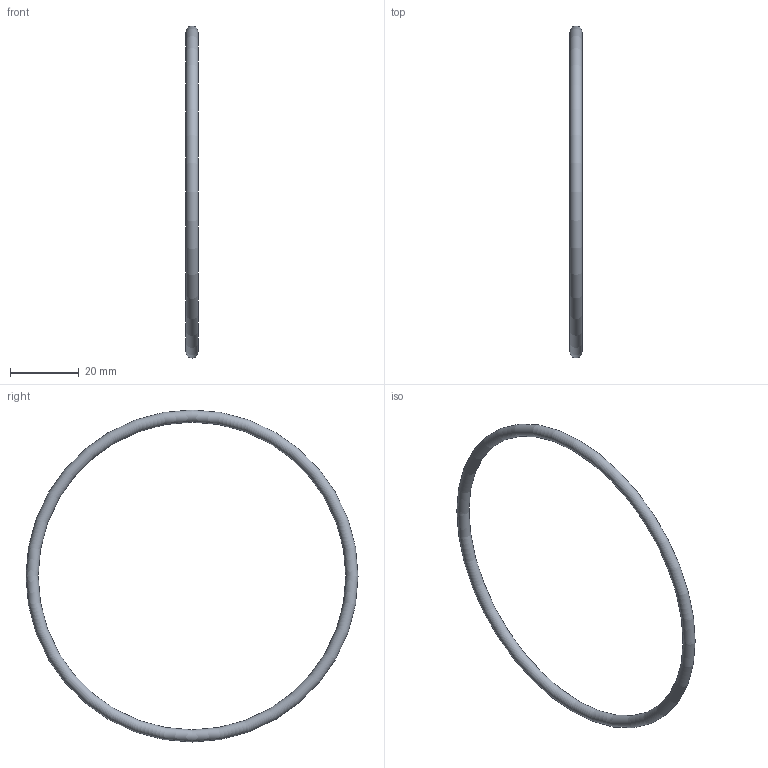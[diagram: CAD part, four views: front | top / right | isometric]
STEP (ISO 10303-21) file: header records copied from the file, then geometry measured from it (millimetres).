
FILE_DESCRIPTION(('Open CASCADE Model'),'2;1');
FILE_NAME('Open CASCADE Shape Model','2026-11-23T20:25:51',('Author'),( 'Open CASCADE'),'Open CASCADE STEP processor 7.9','Open CASCADE 7.9' ,'Unknown');
FILE_SCHEMA(('AUTOMOTIVE_DESIGN { 1 0 10303 214 1 1 1 1 }'));
Length unit declared in the file: millimetre
Products named in the file (1): Open CASCADE STEP translator 7.9 7
Bounding box: 3.53 x 96.73 x 96.73 mm (x, y, z)
Volume: 2865.5 mm3; surface area: 3247.1 mm2
Topology: 1 solids, 1 shells, 1 faces, 2 edges, 1 vertices
Faces by surface type: torus 1
Entity records: 70 total; most frequent: DIRECTION 12, CARTESIAN_POINT 9, AXIS2_PLACEMENT_3D 4, ORIENTED_EDGE 4, PCURVE 4, DEFINITIONAL_REPRESENTATION 4, LINE 4, VECTOR 4
